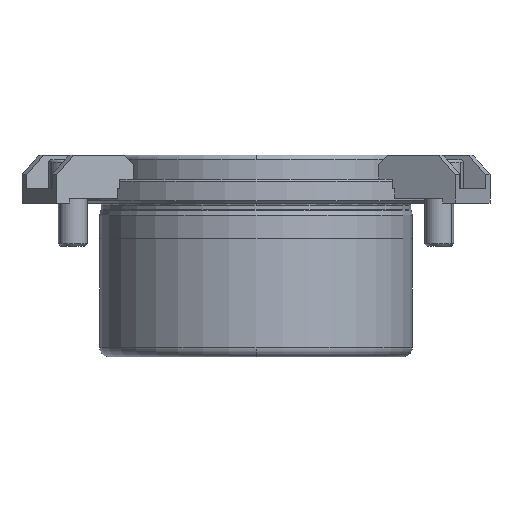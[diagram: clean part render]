
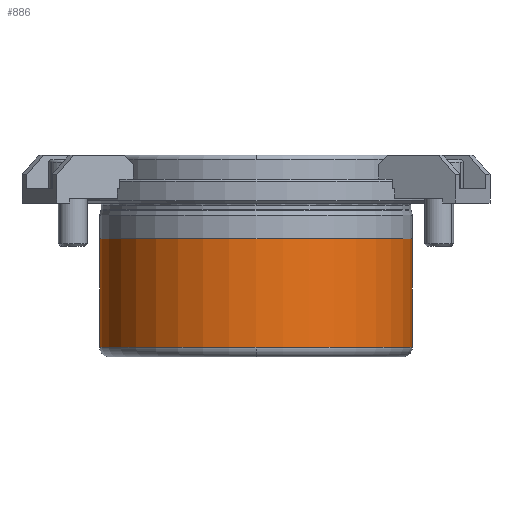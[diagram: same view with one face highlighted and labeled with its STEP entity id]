
A CAD part, front view. The second image highlights one B-rep face of the part: STEP entity #886.
In plain terms, the highlighted cylindrical face has radius 32.494 mm (diameter 64.988 mm), a partial arc.
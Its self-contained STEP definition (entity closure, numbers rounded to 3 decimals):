
#836=CARTESIAN_POINT('',(0.0,0.,-18.7));
#837=DIRECTION('',(0.0,0.,1.0));
#838=DIRECTION('',(1.0,0.0,0.0));
#839=AXIS2_PLACEMENT_3D('',#836,#837,#838);
#840=CYLINDRICAL_SURFACE('',#839,32.494);
#841=CARTESIAN_POINT('',(32.494,0.,-7.4));
#842=VERTEX_POINT('',#841);
#843=CARTESIAN_POINT('',(32.494,0.,-30.0));
#844=VERTEX_POINT('',#843);
#845=CARTESIAN_POINT('',(32.494,0.,-7.4));
#846=DIRECTION('',(0.0,0.0,-1.0));
#847=VECTOR('',#846,22.6);
#848=LINE('',#845,#847);
#849=EDGE_CURVE('',#842,#844,#848,.T.);
#850=ORIENTED_EDGE('',*,*,#849,.F.);
#851=CARTESIAN_POINT('',(-32.494,0.,-7.4));
#852=VERTEX_POINT('',#851);
#853=CARTESIAN_POINT('',(0.0,0.,-7.4));
#854=DIRECTION('',(0.0,0.0,1.0));
#855=DIRECTION('',(1.0,0.0,0.0));
#856=AXIS2_PLACEMENT_3D('',#853,#854,#855);
#857=CIRCLE('',#856,32.494);
#858=EDGE_CURVE('',#852,#842,#857,.T.);
#859=ORIENTED_EDGE('',*,*,#858,.F.);
#860=CARTESIAN_POINT('',(-32.494,0.,-30.0));
#861=VERTEX_POINT('',#860);
#862=CARTESIAN_POINT('',(-32.494,0.,-7.4));
#863=DIRECTION('',(0.0,0.0,-1.0));
#864=VECTOR('',#863,22.6);
#865=LINE('',#862,#864);
#866=EDGE_CURVE('',#852,#861,#865,.T.);
#867=ORIENTED_EDGE('',*,*,#866,.T.);
#868=CARTESIAN_POINT('',(0.0,-32.494,-30.));
#869=VERTEX_POINT('',#868);
#870=CARTESIAN_POINT('',(0.0,0.,-30.0));
#871=DIRECTION('',(0.0,0.0,1.0));
#872=DIRECTION('',(1.0,0.0,0.0));
#873=AXIS2_PLACEMENT_3D('',#870,#871,#872);
#874=CIRCLE('',#873,32.494);
#875=EDGE_CURVE('',#861,#869,#874,.T.);
#876=ORIENTED_EDGE('',*,*,#875,.T.);
#877=CARTESIAN_POINT('',(0.0,0.,-30.0));
#878=DIRECTION('',(0.0,0.0,1.0));
#879=DIRECTION('',(1.0,0.0,0.0));
#880=AXIS2_PLACEMENT_3D('',#877,#878,#879);
#881=CIRCLE('',#880,32.494);
#882=EDGE_CURVE('',#869,#844,#881,.T.);
#883=ORIENTED_EDGE('',*,*,#882,.T.);
#884=EDGE_LOOP('',(#850,#859,#867,#876,#883));
#885=FACE_OUTER_BOUND('',#884,.T.);
#886=ADVANCED_FACE('',(#885),#840,.T.);
